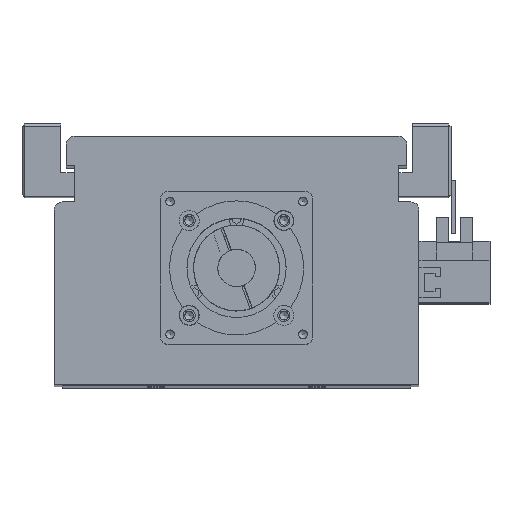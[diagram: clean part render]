
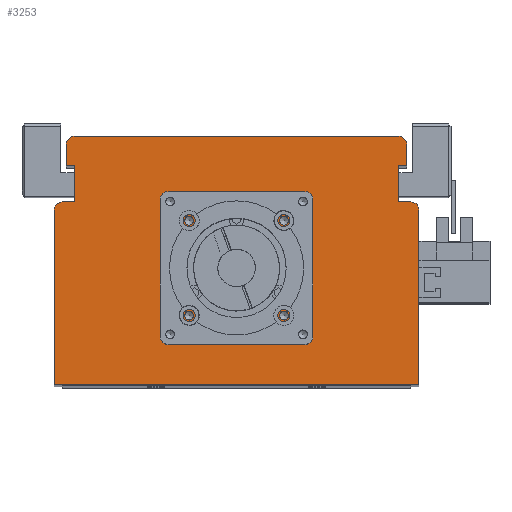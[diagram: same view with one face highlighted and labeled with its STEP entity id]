
A CAD part, top view. The second image highlights one B-rep face of the part: STEP entity #3253.
In plain terms, the highlighted planar face has unit normal (0, 0, 1).
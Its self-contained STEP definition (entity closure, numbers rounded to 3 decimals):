
#1811=CARTESIAN_POINT('',(19.321,61.5,545.));
#1812=VERTEX_POINT('',#1811);
#1813=CARTESIAN_POINT('',(17.7,61.5,545.));
#1814=DIRECTION('',(0.0,0.0,-1.0));
#1815=DIRECTION('',(1.0,0.0,0.0));
#1816=AXIS2_PLACEMENT_3D('',#1813,#1814,#1815);
#1817=CIRCLE('',#1816,1.621);
#1818=EDGE_CURVE('',#1812,#1812,#1817,.T.);
#1890=CARTESIAN_POINT('',(19.321,26.1,545.));
#1891=VERTEX_POINT('',#1890);
#1892=CARTESIAN_POINT('',(17.7,26.1,545.));
#1893=DIRECTION('',(0.0,0.0,-1.0));
#1894=DIRECTION('',(1.0,0.0,0.0));
#1895=AXIS2_PLACEMENT_3D('',#1892,#1893,#1894);
#1896=CIRCLE('',#1895,1.621);
#1897=EDGE_CURVE('',#1891,#1891,#1896,.T.);
#1969=CARTESIAN_POINT('',(-16.079,26.1,545.));
#1970=VERTEX_POINT('',#1969);
#1971=CARTESIAN_POINT('',(-17.7,26.1,545.));
#1972=DIRECTION('',(0.0,0.0,-1.0));
#1973=DIRECTION('',(1.0,0.0,0.0));
#1974=AXIS2_PLACEMENT_3D('',#1971,#1972,#1973);
#1975=CIRCLE('',#1974,1.621);
#1976=EDGE_CURVE('',#1970,#1970,#1975,.T.);
#2048=CARTESIAN_POINT('',(-16.079,61.5,545.));
#2049=VERTEX_POINT('',#2048);
#2050=CARTESIAN_POINT('',(-17.7,61.5,545.));
#2051=DIRECTION('',(0.0,0.0,-1.0));
#2052=DIRECTION('',(1.0,0.0,0.0));
#2053=AXIS2_PLACEMENT_3D('',#2050,#2051,#2052);
#2054=CIRCLE('',#2053,1.621);
#2055=EDGE_CURVE('',#2049,#2049,#2054,.T.);
#2089=CARTESIAN_POINT('',(26.5,43.8,545.));
#2090=VERTEX_POINT('',#2089);
#2091=CARTESIAN_POINT('',(24.5,43.8,545.));
#2092=DIRECTION('',(0.0,0.0,-1.0));
#2093=DIRECTION('',(1.0,0.0,0.0));
#2094=AXIS2_PLACEMENT_3D('',#2091,#2092,#2093);
#2095=CIRCLE('',#2094,2.0);
#2096=EDGE_CURVE('',#2090,#2090,#2095,.T.);
#2138=CARTESIAN_POINT('',(-22.5,43.8,545.));
#2139=VERTEX_POINT('',#2138);
#2140=CARTESIAN_POINT('',(-24.5,43.8,545.));
#2141=DIRECTION('',(0.0,0.0,-1.0));
#2142=DIRECTION('',(1.0,0.0,0.0));
#2143=AXIS2_PLACEMENT_3D('',#2140,#2141,#2142);
#2144=CIRCLE('',#2143,2.0);
#2145=EDGE_CURVE('',#2139,#2139,#2144,.T.);
#3069=CARTESIAN_POINT('',(21.05,43.8,545.));
#3070=VERTEX_POINT('',#3069);
#3071=CARTESIAN_POINT('',(0.0,43.8,545.));
#3072=DIRECTION('',(0.0,0.0,-1.0));
#3073=DIRECTION('',(-1.0,0.0,0.0));
#3074=AXIS2_PLACEMENT_3D('',#3071,#3072,#3073);
#3075=CIRCLE('',#3074,21.05);
#3076=EDGE_CURVE('',#3070,#3070,#3075,.T.);
#3093=CARTESIAN_POINT('',(0.,29.533,545.));
#3094=DIRECTION('',(0.0,0.0,1.0));
#3095=DIRECTION('',(1.0,0.0,0.0));
#3096=AXIS2_PLACEMENT_3D('',#3093,#3094,#3095);
#3097=PLANE('',#3096);
#3098=CARTESIAN_POINT('',(-65.,68.5,545.));
#3099=VERTEX_POINT('',#3098);
#3100=CARTESIAN_POINT('',(-60.5,68.5,545.));
#3101=VERTEX_POINT('',#3100);
#3102=CARTESIAN_POINT('',(-65.,68.5,545.));
#3103=DIRECTION('',(1.0,0.0,0.0));
#3104=VECTOR('',#3103,4.5);
#3105=LINE('',#3102,#3104);
#3106=EDGE_CURVE('',#3099,#3101,#3105,.T.);
#3107=ORIENTED_EDGE('',*,*,#3106,.F.);
#3108=CARTESIAN_POINT('',(-68.,65.5,545.));
#3109=VERTEX_POINT('',#3108);
#3110=CARTESIAN_POINT('',(-65.,65.5,545.0));
#3111=DIRECTION('',(0.0,0.0,-1.0));
#3112=DIRECTION('',(0.0,1.0,0.0));
#3113=AXIS2_PLACEMENT_3D('',#3110,#3111,#3112);
#3114=CIRCLE('',#3113,3.);
#3115=EDGE_CURVE('',#3109,#3099,#3114,.T.);
#3116=ORIENTED_EDGE('',*,*,#3115,.F.);
#3117=CARTESIAN_POINT('',(-68.0,0.5,545.));
#3118=VERTEX_POINT('',#3117);
#3119=CARTESIAN_POINT('',(-68.0,0.5,545.));
#3120=DIRECTION('',(0.0,1.0,0.0));
#3121=VECTOR('',#3120,65.0);
#3122=LINE('',#3119,#3121);
#3123=EDGE_CURVE('',#3118,#3109,#3122,.T.);
#3124=ORIENTED_EDGE('',*,*,#3123,.F.);
#3125=CARTESIAN_POINT('',(68.0,0.5,545.));
#3126=VERTEX_POINT('',#3125);
#3127=CARTESIAN_POINT('',(68.0,0.5,545.));
#3128=DIRECTION('',(-1.0,0.0,0.0));
#3129=VECTOR('',#3128,136.0);
#3130=LINE('',#3127,#3129);
#3131=EDGE_CURVE('',#3126,#3118,#3130,.T.);
#3132=ORIENTED_EDGE('',*,*,#3131,.F.);
#3133=CARTESIAN_POINT('',(68.0,65.5,545.));
#3134=VERTEX_POINT('',#3133);
#3135=CARTESIAN_POINT('',(68.0,65.5,545.));
#3136=DIRECTION('',(0.0,-1.0,0.0));
#3137=VECTOR('',#3136,65.0);
#3138=LINE('',#3135,#3137);
#3139=EDGE_CURVE('',#3134,#3126,#3138,.T.);
#3140=ORIENTED_EDGE('',*,*,#3139,.F.);
#3141=CARTESIAN_POINT('',(65.,68.5,545.));
#3142=VERTEX_POINT('',#3141);
#3143=CARTESIAN_POINT('',(65.,65.5,545.0));
#3144=DIRECTION('',(0.0,0.0,-1.0));
#3145=DIRECTION('',(1.0,0.0,0.0));
#3146=AXIS2_PLACEMENT_3D('',#3143,#3144,#3145);
#3147=CIRCLE('',#3146,3.);
#3148=EDGE_CURVE('',#3142,#3134,#3147,.T.);
#3149=ORIENTED_EDGE('',*,*,#3148,.F.);
#3150=CARTESIAN_POINT('',(60.5,68.5,545.));
#3151=VERTEX_POINT('',#3150);
#3152=CARTESIAN_POINT('',(60.5,68.5,545.));
#3153=DIRECTION('',(1.0,0.0,0.0));
#3154=VECTOR('',#3153,4.5);
#3155=LINE('',#3152,#3154);
#3156=EDGE_CURVE('',#3151,#3142,#3155,.T.);
#3157=ORIENTED_EDGE('',*,*,#3156,.F.);
#3158=CARTESIAN_POINT('',(60.5,82.,545.));
#3159=VERTEX_POINT('',#3158);
#3160=CARTESIAN_POINT('',(60.5,82.,545.));
#3161=DIRECTION('',(0.0,-1.0,0.0));
#3162=VECTOR('',#3161,13.5);
#3163=LINE('',#3160,#3162);
#3164=EDGE_CURVE('',#3159,#3151,#3163,.T.);
#3165=ORIENTED_EDGE('',*,*,#3164,.F.);
#3166=CARTESIAN_POINT('',(63.5,82.,545.));
#3167=VERTEX_POINT('',#3166);
#3168=CARTESIAN_POINT('',(63.5,82.,545.));
#3169=DIRECTION('',(-1.0,0.0,0.0));
#3170=VECTOR('',#3169,3.0);
#3171=LINE('',#3168,#3170);
#3172=EDGE_CURVE('',#3167,#3159,#3171,.T.);
#3173=ORIENTED_EDGE('',*,*,#3172,.F.);
#3174=CARTESIAN_POINT('',(63.5,90.0,545.));
#3175=VERTEX_POINT('',#3174);
#3176=CARTESIAN_POINT('',(63.5,90.0,545.));
#3177=DIRECTION('',(0.0,-1.0,0.0));
#3178=VECTOR('',#3177,8.);
#3179=LINE('',#3176,#3178);
#3180=EDGE_CURVE('',#3175,#3167,#3179,.T.);
#3181=ORIENTED_EDGE('',*,*,#3180,.F.);
#3182=CARTESIAN_POINT('',(60.5,93.,545.));
#3183=VERTEX_POINT('',#3182);
#3184=CARTESIAN_POINT('',(60.5,90.0,545.0));
#3185=DIRECTION('',(0.0,0.0,-1.0));
#3186=DIRECTION('',(1.0,0.0,0.0));
#3187=AXIS2_PLACEMENT_3D('',#3184,#3185,#3186);
#3188=CIRCLE('',#3187,3.);
#3189=EDGE_CURVE('',#3183,#3175,#3188,.T.);
#3190=ORIENTED_EDGE('',*,*,#3189,.F.);
#3191=CARTESIAN_POINT('',(-60.5,93.0,545.));
#3192=VERTEX_POINT('',#3191);
#3193=CARTESIAN_POINT('',(-60.5,93.0,545.));
#3194=DIRECTION('',(1.0,0.0,0.0));
#3195=VECTOR('',#3194,121.0);
#3196=LINE('',#3193,#3195);
#3197=EDGE_CURVE('',#3192,#3183,#3196,.T.);
#3198=ORIENTED_EDGE('',*,*,#3197,.F.);
#3199=CARTESIAN_POINT('',(-63.5,90.0,545.));
#3200=VERTEX_POINT('',#3199);
#3201=CARTESIAN_POINT('',(-60.5,90.0,545.0));
#3202=DIRECTION('',(0.0,0.0,-1.0));
#3203=DIRECTION('',(0.0,1.0,0.0));
#3204=AXIS2_PLACEMENT_3D('',#3201,#3202,#3203);
#3205=CIRCLE('',#3204,3.);
#3206=EDGE_CURVE('',#3200,#3192,#3205,.T.);
#3207=ORIENTED_EDGE('',*,*,#3206,.F.);
#3208=CARTESIAN_POINT('',(-63.5,82.,545.));
#3209=VERTEX_POINT('',#3208);
#3210=CARTESIAN_POINT('',(-63.5,82.,545.));
#3211=DIRECTION('',(0.0,1.0,0.0));
#3212=VECTOR('',#3211,8.);
#3213=LINE('',#3210,#3212);
#3214=EDGE_CURVE('',#3209,#3200,#3213,.T.);
#3215=ORIENTED_EDGE('',*,*,#3214,.F.);
#3216=CARTESIAN_POINT('',(-60.5,82.,545.));
#3217=VERTEX_POINT('',#3216);
#3218=CARTESIAN_POINT('',(-60.5,82.,545.));
#3219=DIRECTION('',(-1.0,0.0,0.0));
#3220=VECTOR('',#3219,3.);
#3221=LINE('',#3218,#3220);
#3222=EDGE_CURVE('',#3217,#3209,#3221,.T.);
#3223=ORIENTED_EDGE('',*,*,#3222,.F.);
#3224=CARTESIAN_POINT('',(-60.5,68.5,545.));
#3225=DIRECTION('',(0.0,1.0,0.0));
#3226=VECTOR('',#3225,13.5);
#3227=LINE('',#3224,#3226);
#3228=EDGE_CURVE('',#3101,#3217,#3227,.T.);
#3229=ORIENTED_EDGE('',*,*,#3228,.F.);
#3230=EDGE_LOOP('',(#3107,#3116,#3124,#3132,#3140,#3149,#3157,#3165,#3173,#3181,#3190,#3198,#3207,#3215,#3223,#3229));
#3231=FACE_OUTER_BOUND('',#3230,.T.);
#3232=ORIENTED_EDGE('',*,*,#1818,.T.);
#3233=EDGE_LOOP('',(#3232));
#3234=FACE_BOUND('',#3233,.T.);
#3235=ORIENTED_EDGE('',*,*,#1897,.T.);
#3236=EDGE_LOOP('',(#3235));
#3237=FACE_BOUND('',#3236,.T.);
#3238=ORIENTED_EDGE('',*,*,#1976,.T.);
#3239=EDGE_LOOP('',(#3238));
#3240=FACE_BOUND('',#3239,.T.);
#3241=ORIENTED_EDGE('',*,*,#2055,.T.);
#3242=EDGE_LOOP('',(#3241));
#3243=FACE_BOUND('',#3242,.T.);
#3244=ORIENTED_EDGE('',*,*,#2096,.T.);
#3245=EDGE_LOOP('',(#3244));
#3246=FACE_BOUND('',#3245,.T.);
#3247=ORIENTED_EDGE('',*,*,#2145,.T.);
#3248=EDGE_LOOP('',(#3247));
#3249=FACE_BOUND('',#3248,.T.);
#3250=ORIENTED_EDGE('',*,*,#3076,.T.);
#3251=EDGE_LOOP('',(#3250));
#3252=FACE_BOUND('',#3251,.T.);
#3253=ADVANCED_FACE('',(#3231,#3234,#3237,#3240,#3243,#3246,#3249,#3252),#3097,.T.);
